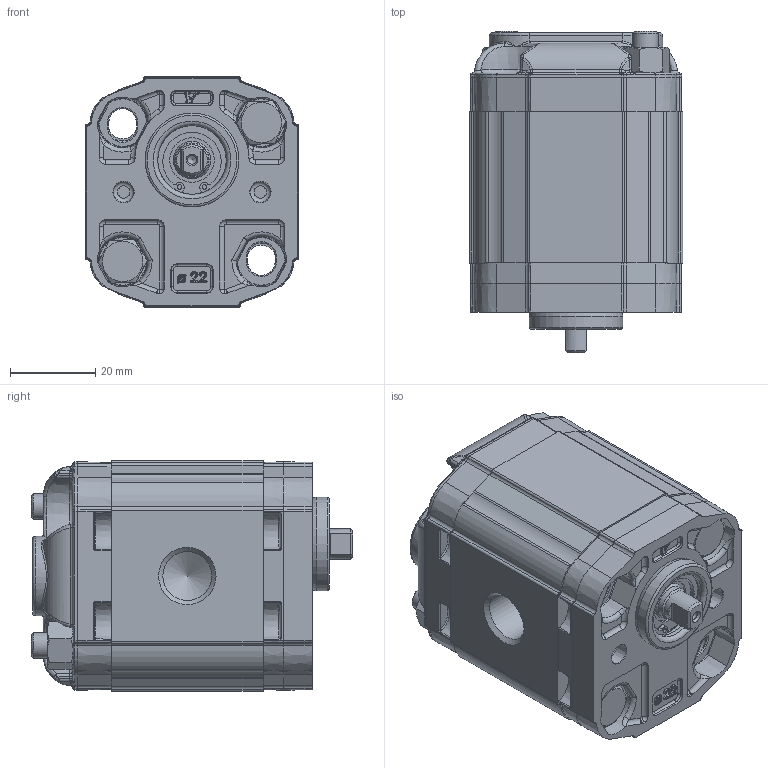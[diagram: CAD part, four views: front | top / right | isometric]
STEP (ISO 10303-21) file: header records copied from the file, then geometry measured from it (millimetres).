
FILE_DESCRIPTION(/* description */ ('Unknown'),/* implementation_level */ '2;1');
FILE_NAME(/* name */ 'X0P0721BBBA',/* time_stamp */ '2026-05-25T16:54:29+02:00',/* author */ ('Unknown'),/* organization */ ('Unknown'),/* preprocessor_version */ 'ST-DEVELOPER v16.7',/* originating_system */ 'Solid Edge',/* authorisation */ 'Unknown');
FILE_SCHEMA (('AUTOMOTIVE_DESIGN {1 0 10303 214 3 1 1}'));
Products named in the file (5): X0P0721BBBA; X0P21; 0B; X0BBH35,5; XP017-A
Assembly tree (4 placements, depth 2):
  X0P0721BBBA
    X0P21
    0B
    X0BBH35,5
    XP017-A
Bounding box: 50 x 75.3 x 54 mm (x, y, z)
Volume: 136719.4 mm3; surface area: 36318.2 mm2
Topology: 5 solids, 5 shells, 2174 faces, 5258 edges, 3111 vertices
Faces by surface type: cylinder 651, plane 533, bspline 484, cone 256, torus 190, sphere 60
Full cylindrical faces by diameter (mm): 1.053 x2, 2 x1, 6 x4, 6.01 x2, 6.5 x4, 6.511 x1, 6.518 x1, 7.16 x1, 7.5 x2, 7.92 x1, 8 x2, 9.318 x1, 10 x2, 10.445 x1, 11 x1, 11.445 x2, 13 x1, 14 x1, 16 x1, 16.2 x1, 16.8 x1, 22 x1
Entity records: 134553 total; most frequent: CARTESIAN_POINT 72724, ORIENTED_EDGE 10086, DIRECTION 8977, EDGE_CURVE 5043, AXIS2_PLACEMENT_3D 3644, VERTEX_POINT 3057, FACE_BOUND 2396, EDGE_LOOP 2393
